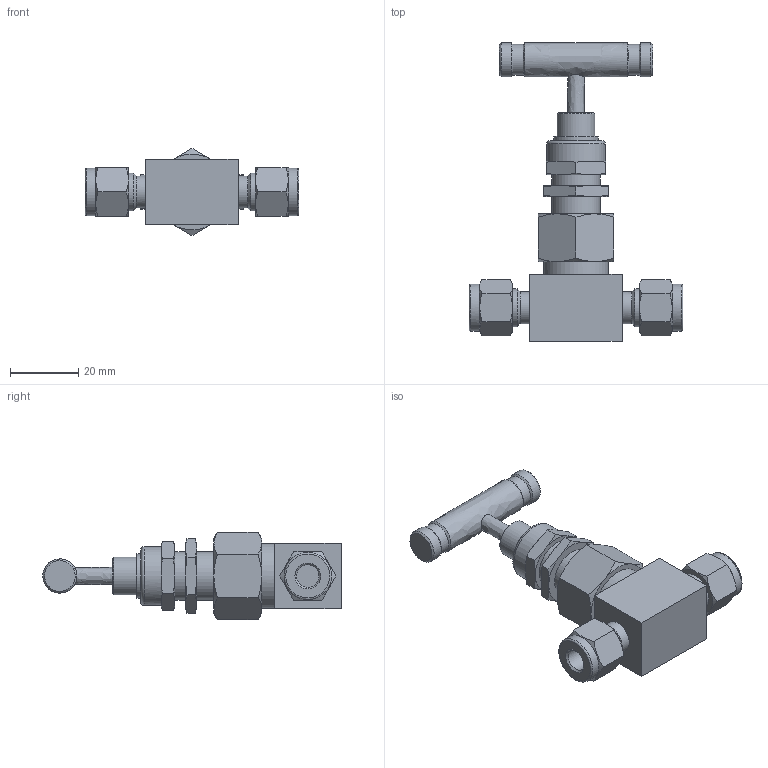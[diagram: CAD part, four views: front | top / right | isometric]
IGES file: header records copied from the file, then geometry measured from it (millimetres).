
Global section: file name: SUNV1-S4-S316; native system: Autodesk Inventor 2016; preprocessor: unknown; author: 이승민,,11,0; organization: 20161215.102753; date: 20161216.192748; units: millimetre
Bounding box: 62.69 x 87.54 x 25.66 mm (x, y, z)
Volume: 30178.3 mm3; surface area: 12894.6 mm2
Topology: 2 solids, 2 shells, 158 faces, 387 edges, 254 vertices
Faces by surface type: bspline 158
